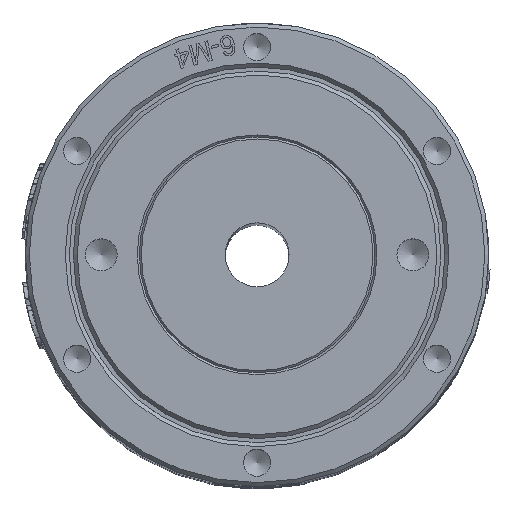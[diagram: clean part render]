
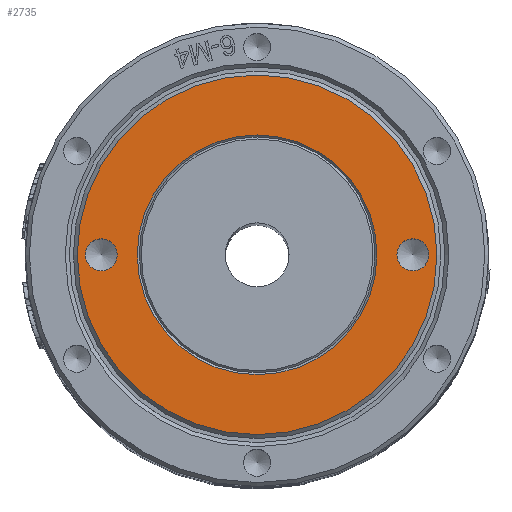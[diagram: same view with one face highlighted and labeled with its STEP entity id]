
A CAD part, top view. The second image highlights one B-rep face of the part: STEP entity #2735.
In plain terms, the highlighted planar face has unit normal (0, 0, 1).
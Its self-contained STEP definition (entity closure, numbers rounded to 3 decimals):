
#379=FACE_BOUND('',#5611,.T.);
#380=FACE_BOUND('',#5612,.T.);
#381=FACE_BOUND('',#5613,.T.);
#382=FACE_BOUND('',#5614,.T.);
#1746=CIRCLE('',#22259,2.);
#1747=CIRCLE('',#22260,2.);
#1748=CIRCLE('',#22261,22.5);
#1749=CIRCLE('',#22262,15.);
#2735=ADVANCED_FACE('',(#379,#380,#381,#382),#3708,.T.);
#3708=PLANE('',#22263);
#5611=EDGE_LOOP('',(#10769));
#5612=EDGE_LOOP('',(#10770));
#5613=EDGE_LOOP('',(#10771));
#5614=EDGE_LOOP('',(#10772));
#10769=ORIENTED_EDGE('',*,*,#18267,.T.);
#10770=ORIENTED_EDGE('',*,*,#18268,.T.);
#10771=ORIENTED_EDGE('',*,*,#18269,.T.);
#10772=ORIENTED_EDGE('',*,*,#18270,.T.);
#15507=VERTEX_POINT('',#38561);
#15508=VERTEX_POINT('',#38563);
#15509=VERTEX_POINT('',#38565);
#15510=VERTEX_POINT('',#38567);
#18267=EDGE_CURVE('',#15507,#15507,#1746,.T.);
#18268=EDGE_CURVE('',#15508,#15508,#1747,.T.);
#18269=EDGE_CURVE('',#15509,#15509,#1748,.T.);
#18270=EDGE_CURVE('',#15510,#15510,#1749,.T.);
#22259=AXIS2_PLACEMENT_3D('',#38560,#24756,#24757);
#22260=AXIS2_PLACEMENT_3D('',#38562,#24758,#24759);
#22261=AXIS2_PLACEMENT_3D('',#38564,#24760,#24761);
#22262=AXIS2_PLACEMENT_3D('',#38566,#24762,#24763);
#22263=AXIS2_PLACEMENT_3D('',#38568,#24764,#24765);
#24756=DIRECTION('',(0.,0.,-1.));
#24757=DIRECTION('',(-1.,0.,0.));
#24758=DIRECTION('',(0.,0.,-1.));
#24759=DIRECTION('',(1.,0.,0.));
#24760=DIRECTION('',(0.,0.,1.));
#24761=DIRECTION('',(1.,0.,0.));
#24762=DIRECTION('',(0.,0.,-1.));
#24763=DIRECTION('',(1.,0.,0.));
#24764=DIRECTION('',(0.,0.,1.));
#24765=DIRECTION('',(-1.,0.,0.));
#38560=CARTESIAN_POINT('',(19.5,0.,179.5));
#38561=CARTESIAN_POINT('',(17.5,0.,179.5));
#38562=CARTESIAN_POINT('',(-19.5,0.,179.5));
#38563=CARTESIAN_POINT('',(-17.5,0.,179.5));
#38564=CARTESIAN_POINT('',(0.,0.,179.5));
#38565=CARTESIAN_POINT('',(22.5,0.,179.5));
#38566=CARTESIAN_POINT('',(0.,0.,179.5));
#38567=CARTESIAN_POINT('',(15.,0.,179.5));
#38568=CARTESIAN_POINT('',(0.,0.,179.5));
